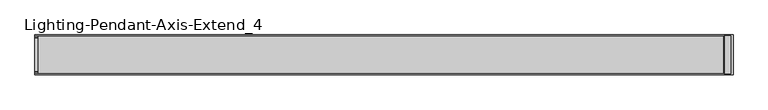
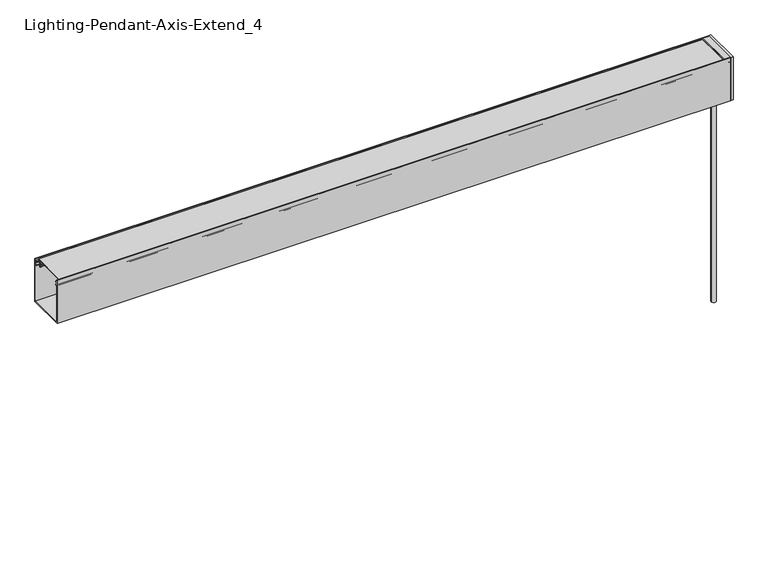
"""IFC4 building model written with IfcOpenShell, lengths in millimetres: light fixture geometry, Lighting-Pendant-Axis-Extend_4 : EX4PD-900-80-35-SO-4."""

import ifcopenshell
import ifcopenshell.guid

model = None  # the IFC model being written
_history = None  # IfcOwnerHistory: only IFC2X3 demands one
_inside = {}  # id of a spatial element -> (the spatial element, [elements in it])
_under = {}  # id of a project, library or spatial element -> (it, [spatial elements below it])
_declared = {}  # id of a project -> (the project, [libraries it declares])
_typed = {}  # id of a type object -> (the type object, [elements of that type])
_made_of = {}  # id of a material, layer set ... -> (it, [elements and type objects made of it])


def new_model(schema):
    """Start an empty IFC model of exactly this schema.

    Asked for "IFC4X3", IfcOpenShell would pick the latest addendum, in which some entities
    have other attributes; the version numbers below select the first issue.
    IFC2X3 requires an IfcOwnerHistory on every rooted entity: one is made here for all.
    """
    global model, _history
    if schema == "IFC4X3":
        model = ifcopenshell.file(schema_version=(4, 3, 0, 0))
    else:
        model = ifcopenshell.file(schema=schema)
    _inside.clear()
    _under.clear()
    _declared.clear()
    _typed.clear()
    _made_of.clear()
    _history = None
    if model.schema == "IFC2X3":
        org = make("IfcOrganization", Name="unknown")
        user = make(
            "IfcPersonAndOrganization",
            ThePerson=make("IfcPerson", FamilyName="unknown"),
            TheOrganization=org,
        )
        app = make(
            "IfcApplication",
            ApplicationDeveloper=org,
            Version="unknown",
            ApplicationFullName="unknown",
            ApplicationIdentifier="unknown",
        )
        _history = make(
            "IfcOwnerHistory",
            OwningUser=user,
            OwningApplication=app,
            ChangeAction="ADDED",
            CreationDate=0,
        )
    return model


def make(cls, **values):
    """One entity of the class cls with the attributes given. An attribute that is None is left unset."""
    return model.create_entity(
        cls, **{name: value for name, value in values.items() if value is not None}
    )


def rooted(cls, **values):
    """An entity with a GlobalId (a new one), such as an element, a storey or a relation."""
    return make(cls, GlobalId=ifcopenshell.guid.new(), OwnerHistory=_history, **values)


def si_unit(unit_type, name, prefix=None):
    """IfcSIUnit, for example si_unit("LENGTHUNIT", "METRE", prefix="MILLI")."""
    return make("IfcSIUnit", UnitType=unit_type, Prefix=prefix, Name=name)


def assignment(units):
    """IfcUnitAssignment: the units of a project."""
    return None if units is None else make("IfcUnitAssignment", Units=units)


def point(xyz):
    """IfcCartesianPoint."""
    return None if xyz is None else make("IfcCartesianPoint", Coordinates=xyz)


def direction(xyz):
    """IfcDirection."""
    return None if xyz is None else make("IfcDirection", DirectionRatios=xyz)


def frame(location, z_axis=None, x_axis=None):
    """IfcAxis2Placement3D, a coordinate frame: its origin and axes. An axis left out is left unset."""
    return make(
        "IfcAxis2Placement3D",
        Location=point(location),
        Axis=direction(z_axis),
        RefDirection=direction(x_axis),
    )


def frame_2d(location, x_axis=None):
    """IfcAxis2Placement2D, a coordinate frame in the plane: its origin and x axis."""
    return make(
        "IfcAxis2Placement2D", Location=point(location), RefDirection=direction(x_axis)
    )


def origin():
    """The frame at (0, 0, 0) with its axes left unset."""
    return frame((0.0, 0.0, 0.0))


def place(relative_to, where):
    """IfcLocalPlacement: puts the frame where relative to a parent placement (None: the world)."""
    return make(
        "IfcLocalPlacement", PlacementRelTo=relative_to, RelativePlacement=where
    )


def context(
    kind, dimensions, precision=None, world=None, true_north=None, identifier=None
):
    """IfcGeometricRepresentationContext, for example the 3D "Model" context."""
    return make(
        "IfcGeometricRepresentationContext",
        ContextIdentifier=identifier,
        ContextType=kind,
        CoordinateSpaceDimension=dimensions,
        Precision=precision,
        WorldCoordinateSystem=world,
        TrueNorth=true_north,
    )


def project(units=None, contexts=None):
    """IfcProject with its units and contexts."""
    return rooted(
        "IfcProject",
        Name="project",
        RepresentationContexts=contexts,
        UnitsInContext=assignment(units),
    )


def spatial(cls, under=None, at=None, **own):
    """A site, building, storey or space (cls), placed at a placement, below another one or the project."""
    s = rooted(cls, ObjectPlacement=at, **own)
    if under is not None:
        _under.setdefault(under.id(), (under, []))[1].append(s)
    return s


def polyline(points):
    """IfcPolyline through the points."""
    return make("IfcPolyline", Points=[point(p) for p in points])


def circle_curve(where, radius):
    """IfcCircle in the frame where."""
    return make("IfcCircle", Position=where, Radius=radius)


def trimmed(basis, trim1, trim2, sense, master):
    """IfcTrimmedCurve: the piece of a basis curve between two trims."""
    return make(
        "IfcTrimmedCurve",
        BasisCurve=basis,
        Trim1=trim1,
        Trim2=trim2,
        SenseAgreement=sense,
        MasterRepresentation=master,
    )


def segment(curve, same_sense, transition):
    """IfcCompositeCurveSegment."""
    return make(
        "IfcCompositeCurveSegment",
        Transition=transition,
        SameSense=same_sense,
        ParentCurve=curve,
    )


def composite_curve(segments, self_intersect=None):
    """IfcCompositeCurve: segments joined end to end."""
    return make("IfcCompositeCurve", Segments=segments, SelfIntersect=self_intersect)


def outline(outer, holes=None, kind="AREA"):
    """IfcArbitraryClosedProfileDef: a profile drawn as a closed curve; with holes, ...WithVoids."""
    if holes is None:
        return make("IfcArbitraryClosedProfileDef", ProfileType=kind, OuterCurve=outer)
    return make(
        "IfcArbitraryProfileDefWithVoids",
        ProfileType=kind,
        OuterCurve=outer,
        InnerCurves=holes,
    )


def extrude(swept, where, along, depth):
    """IfcExtrudedAreaSolid: the profile swept, set in the frame where, extruded along a direction by depth."""
    return make(
        "IfcExtrudedAreaSolid",
        SweptArea=swept,
        Position=where,
        ExtrudedDirection=direction(along),
        Depth=depth,
    )


def shape(context_of_items, identifier, shape_type, items):
    """IfcShapeRepresentation: the items that make up one representation, for example the "Body"."""
    return make(
        "IfcShapeRepresentation",
        ContextOfItems=context_of_items,
        RepresentationIdentifier=identifier,
        RepresentationType=shape_type,
        Items=items,
    )


def source(mapping_origin, context_of_items, identifier, shape_type, items):
    """IfcRepresentationMap: a shape defined once, which mapped items show again and again."""
    return make(
        "IfcRepresentationMap",
        MappingOrigin=mapping_origin,
        MappedRepresentation=shape(context_of_items, identifier, shape_type, items),
    )


def transform(
    local_origin,
    x_axis=None,
    y_axis=None,
    z_axis=None,
    scale=None,
    scale2=None,
    scale3=None,
    uniform=True,
):
    """IfcCartesianTransformationOperator3D, or its non-uniform kind. x_axis, y_axis, z_axis: its Axis1, 2, 3."""
    if uniform:
        return make(
            "IfcCartesianTransformationOperator3D",
            Axis1=direction(x_axis),
            Axis2=direction(y_axis),
            LocalOrigin=point(local_origin),
            Scale=scale,
            Axis3=direction(z_axis),
        )
    return make(
        "IfcCartesianTransformationOperator3DnonUniform",
        Axis1=direction(x_axis),
        Axis2=direction(y_axis),
        LocalOrigin=point(local_origin),
        Scale=scale,
        Axis3=direction(z_axis),
        Scale2=scale2,
        Scale3=scale3,
    )


def mapped(mapping_source, mapping_target):
    """IfcMappedItem: shows the shape of a source again, moved by a transform."""
    return make(
        "IfcMappedItem", MappingSource=mapping_source, MappingTarget=mapping_target
    )


def made_of(thing, what):
    """Note that an element or type object is made of a material, layer set ...; save() writes the relation."""
    if what is not None:
        _made_of.setdefault(what.id(), (what, []))[1].append(thing)
    return thing


def element(
    cls,
    number,
    at=None,
    inside=None,
    cuts=None,
    type_object=None,
    material=None,
    context=None,
    identifier="Body",
    shape_type=None,
    held_by="IfcProductDefinitionShape",
    body=None,
    shapes=None,
    **own,
):
    """One element of the class cls, such as IfcWall. Its Tag is "e" and its number.

    at: its placement. inside: the storey or other place that contains it. cuts: it is an
    opening in that element (IfcRelVoidsElement). A single representation is given by context,
    identifier, shape_type and body (its items); several are given by shapes. held_by: the class
    of the entity that holds the representations. save() writes the other relations.
    """
    e = rooted(cls, Tag="e%d" % number, ObjectPlacement=at, **own)
    if body is not None:
        shapes = [shape(context, identifier, shape_type, body)]
    if shapes is not None:
        e.Representation = make(held_by, Representations=shapes)
    if inside is not None:
        _inside.setdefault(inside.id(), (inside, []))[1].append(e)
    if cuts is not None:
        rooted(
            "IfcRelVoidsElement", RelatingBuildingElement=cuts, RelatedOpeningElement=e
        )
    if type_object is not None:
        _typed.setdefault(type_object.id(), (type_object, []))[1].append(e)
    return made_of(e, material)


def aggregate(whole, parts):
    """IfcRelAggregates: a whole, such as a stair, and the parts it consists of."""
    return rooted("IfcRelAggregates", RelatingObject=whole, RelatedObjects=parts)


def save(model, path):
    """Write the relations noted so far, then the file.

    IfcRelAggregates (storeys below a building ...), IfcRelContainedInSpatialStructure (elements
    in a storey), IfcRelDefinesByType, IfcRelAssociatesMaterial and IfcRelDeclares: one each for
    every whole, place, type object, material and project.
    """
    for whole, parts in _under.values():
        aggregate(whole, parts)
    for where, things in _inside.values():
        rooted(
            "IfcRelContainedInSpatialStructure",
            RelatedElements=things,
            RelatingStructure=where,
        )
    for kind, things in _typed.values():
        rooted("IfcRelDefinesByType", RelatedObjects=things, RelatingType=kind)
    for what, things in _made_of.values():
        rooted("IfcRelAssociatesMaterial", RelatedObjects=things, RelatingMaterial=what)
    for by, libraries in _declared.values():
        rooted("IfcRelDeclares", RelatingContext=by, RelatedDefinitions=libraries)
    model.write(path)


def plane_surface(at):
    """IfcPlane: the flat surface through the origin of the frame at, square to its z axis."""
    return make("IfcPlane", Position=at)


def cylinder_surface(at, radius):
    """IfcCylindricalSurface: all points at the distance radius from the z axis of the frame at."""
    return make("IfcCylindricalSurface", Position=at, Radius=radius)


def advanced_brep(points, edges, surfaces, faces):
    """IfcAdvancedBrep: a solid bounded by faces that lie on surfaces and meet in shared edges.

    An edge is (start, end): straight between two places in points (the first is 0);
    or (start, end, curve); or (start, end, curve, False) where it runs against its curve.
    A face is (place in surfaces, loops), or (place, loops, False) where it looks against
    its surface's normal. A loop lists edges by number (the first is 1), with a minus sign
    where the edge is run from its end to its start. The first loop is the outer one.
    """
    corners = [point(p) for p in points]
    vertices = [make("IfcVertexPoint", VertexGeometry=c) for c in corners]
    made = []
    for start, end, *more in edges:
        made.append(
            make(
                "IfcEdgeCurve",
                EdgeStart=vertices[start],
                EdgeEnd=vertices[end],
                EdgeGeometry=more[0] if more else make("IfcPolyline", Points=[corners[start], corners[end]]),
                SameSense=more[1] if len(more) > 1 else True,
            )
        )
    hull = []
    for where, loops, *sense in faces:
        bounds = []
        for j, loop in enumerate(loops):
            ring = [make("IfcOrientedEdge", EdgeElement=made[abs(k) - 1], Orientation=k > 0) for k in loop]
            bounds.append(
                make(
                    "IfcFaceOuterBound" if j == 0 else "IfcFaceBound",
                    Bound=make("IfcEdgeLoop", EdgeList=ring),
                    Orientation=True,
                )
            )
        hull.append(make("IfcAdvancedFace", Bounds=bounds, FaceSurface=surfaces[where], SameSense=sense[0] if sense else True))
    return make("IfcAdvancedBrep", Outer=make("IfcClosedShell", CfsFaces=hull))


def lighting_pendant_axis_extend_4_bea8cebc(model_context):
    return source(origin(), model_context, "Body", "SolidModel", [
        extrude(outline(polyline([(733.2757861, 911.0726), (731.80575, 911.0726), (731.80575, 911.86635), (732.5995, 911.86635), (732.5995, 918.718), (729.7932981, 918.718), (729.7932981, 929.386), (734.3775, 929.386), (734.3775, 911.9971437), (733.2757861, 911.0726)])), frame((0.0, -50.75301, 0.0), z_axis=(0.0, 1.0, 0.0), x_axis=(0.0, 0.0, 1.0)), (0.0, 0.0, 1.0), 101.50602),
        extrude(outline(polyline([(929.386, -52.78501), (929.386, 52.78501), (935.736, 52.78501), (935.736, -52.78501), (929.386, -52.78501)])), frame((0.0, 0.0, 609.6), z_axis=(0.0, 0.0, 1.0), x_axis=(1.0, 0.0, 0.0)), (0.0, 0.0, 1.0), 124.7775),
        advanced_brep(
        [(918.972, 0.0, 609.6), (906.272, 0.0, 609.6), (912.622, 0.0, 609.6), (918.972, 0.0, 0.0), (906.272, 0.0, 0.0), (912.622, 0.0, 0.0)],
        [
            (0, 1, circle_curve(frame((912.622, 0.0, 609.6), z_axis=(0.0, 0.0, 1.0), x_axis=(-1.0, 0.0, 0.0)), 6.35)),
            (1, 2),
            (2, 0),
            (1, 0, circle_curve(frame((912.622, 0.0, 609.6), z_axis=(0.0, 0.0, 1.0), x_axis=(-1.0, 0.0, 0.0)), 6.35)),
            (3, 4, circle_curve(frame((912.622, 0.0, 0.0), z_axis=(0.0, 0.0, 1.0), x_axis=(-1.0, 0.0, 0.0)), 6.35)),
            (4, 1),
            (0, 3),
            (4, 3, circle_curve(frame((912.622, 0.0, 0.0), z_axis=(0.0, 0.0, 1.0), x_axis=(-1.0, 0.0, 0.0)), 6.35)),
            (5, 4),
            (3, 5),
        ],
        [
            plane_surface(frame((912.622, 0.0, 609.6), z_axis=(0.0, 0.0, 1.0), x_axis=(-1.0, 0.0, 0.0))),
            cylinder_surface(frame((912.622, 0.0, 2913.8581012), z_axis=(0.0, 0.0, -1.0), x_axis=(-1.0, 0.0, 0.0)), 6.35),
            plane_surface(frame((912.622, 0.0, 0.0), z_axis=(0.0, 0.0, -1.0), x_axis=(-1.0, 0.0, 0.0))),
        ],
        [
            (0, [[1, 2, 3]]),
            (0, [[4, -3, -2]]),
            (1, [[5, 6, -1, 7]]),
            (1, [[8, -7, -4, -6]]),
            (2, [[9, -5, 10]]),
            (2, [[-10, -8, -9]]),
        ],
    ),
        extrude(outline(composite_curve([segment(polyline([(-44.9537362, 729.4879991), (-45.2924281, 723.0253737)]), True, "CONTINUOUS"), segment(trimmed(circle_curve(frame_2d((-48.03521, 720.0265)), 4.064), [point((-45.2924281, 723.0253737))], [point((-46.1628914, 716.4194903))], False, "CARTESIAN"), True, "CONTINUOUS"), segment(trimmed(circle_curve(frame_2d((-42.930354, 717.2083457)), 3.3274001), [point((-46.1628914, 716.4194903))], [point((-45.3476056, 714.9217575))], True, "CARTESIAN"), True, "CONTINUOUS"), segment(trimmed(circle_curve(frame_2d((-37.9113277, 721.9560708)), 10.2362001), [point((-45.3476056, 714.9217575))], [point((-43.9929166, 713.7223555))], True, "CARTESIAN"), True, "CONTINUOUS"), segment(trimmed(circle_curve(frame_2d((-44.4833673, 713.0583462)), 0.8255), [point((-43.9929166, 713.7223555))], [point((-44.973818, 712.3943369))], False, "CARTESIAN"), True, "CONTINUOUS"), segment(trimmed(circle_curve(frame_2d((-37.9113269, 721.9560717)), 11.8872013), [point((-44.973818, 712.3943369))], [point((-46.5470052, 713.7871908))], False, "CARTESIAN"), True, "CONTINUOUS"), segment(trimmed(circle_curve(frame_2d((-42.930354, 717.2083457)), 4.9784001), [point((-46.5470052, 713.7871908))], [point((-47.8918907, 717.61776))], False, "CARTESIAN"), True, "CONTINUOUS"), segment(trimmed(circle_curve(frame_2d((-48.03521, 720.0265)), 2.413), [point((-47.8918907, 717.61776))], [point((-46.2564041, 721.6569658))], True, "CARTESIAN"), True, "CONTINUOUS"), segment(trimmed(circle_curve(frame_2d((-44.3839769, 723.3732456)), 2.54), [point((-46.2564041, 721.6569658))], [point((-46.9204959, 723.5061789))], False, "CARTESIAN"), True, "CONTINUOUS"), segment(polyline([(-46.9204959, 723.5061789), (-46.607002, 729.4879991), (-49.61001, 729.4879991), (-49.61001, 731.393), (49.61001, 731.393), (49.61001, 729.4879991), (46.607002, 729.4879991), (46.9204959, 723.5061789)]), True, "CONTINUOUS"), segment(trimmed(circle_curve(frame_2d((44.3839769, 723.3732456)), 2.54), [point((46.9204959, 723.5061789))], [point((46.2564041, 721.6569658))], False, "CARTESIAN"), True, "CONTINUOUS"), segment(trimmed(circle_curve(frame_2d((48.03521, 720.0265)), 2.413), [point((46.2564041, 721.6569658))], [point((47.8918907, 717.61776))], True, "CARTESIAN"), True, "CONTINUOUS"), segment(trimmed(circle_curve(frame_2d((42.930354, 717.2083457)), 4.9784001), [point((47.8918907, 717.61776))], [point((46.5470052, 713.7871908))], False, "CARTESIAN"), True, "CONTINUOUS"), segment(trimmed(circle_curve(frame_2d((37.9113269, 721.9560717)), 11.8872013), [point((46.5470052, 713.7871908))], [point((44.973818, 712.3943369))], False, "CARTESIAN"), True, "CONTINUOUS"), segment(trimmed(circle_curve(frame_2d((44.4833673, 713.0583462)), 0.8255), [point((44.973818, 712.3943369))], [point((43.9929166, 713.7223555))], False, "CARTESIAN"), True, "CONTINUOUS"), segment(trimmed(circle_curve(frame_2d((37.9113277, 721.9560708)), 10.2362001), [point((43.9929166, 713.7223555))], [point((45.3476056, 714.9217575))], True, "CARTESIAN"), True, "CONTINUOUS"), segment(trimmed(circle_curve(frame_2d((42.930354, 717.2083457)), 3.3274001), [point((45.3476056, 714.9217575))], [point((46.1628914, 716.4194903))], True, "CARTESIAN"), True, "CONTINUOUS"), segment(trimmed(circle_curve(frame_2d((48.03521, 720.0265)), 4.064), [point((46.1628914, 716.4194903))], [point((45.2924281, 723.0253737))], False, "CARTESIAN"), True, "CONTINUOUS"), segment(polyline([(45.2924281, 723.0253737), (44.9537362, 729.4879991), (-44.9537362, 729.4879991)]), True, "CONTINUOUS")], self_intersect=False)), frame((-914.4, 0.0, 0.0), z_axis=(1.0, 0.0, 0.0), x_axis=(0.0, 1.0, 0.0)), (0.0, 0.0, 1.0), 1828.8),
        extrude(outline(composite_curve([segment(polyline([(-50.75301, 719.4677), (-50.75301, 611.632), (50.75301, 611.632), (50.75301, 719.4677), (48.9135897, 719.4677)]), True, "CONTINUOUS"), segment(trimmed(circle_curve(frame_2d((47.4072397, 719.4677)), 1.5063501), [point((48.9135897, 719.4677))], [point((46.6540646, 718.1631626))], False, "CARTESIAN"), True, "CONTINUOUS"), segment(trimmed(circle_curve(frame_2d((47.8452221, 720.2263079)), 2.382315), [point((46.6540646, 718.1631626))], [point((45.4706616, 720.4183682))], False, "CARTESIAN"), True, "CONTINUOUS"), segment(polyline([(45.4706616, 720.4183682), (48.84801, 723.2523), (48.84801, 721.4997), (50.75301, 721.4997), (50.75301, 728.0275), (48.84801, 728.0275), (48.84801, 726.5035), (47.19701, 726.5900252), (47.19701, 729.2975), (50.75301, 729.2975), (50.75301, 734.3775), (52.78501, 734.3775), (52.78501, 609.6), (-52.78501, 609.6), (-52.78501, 734.3775), (-50.75301, 734.3775), (-50.75301, 729.2975), (-47.19701, 729.2975), (-47.19701, 726.5900252), (-48.84801, 726.5035), (-48.84801, 728.0275), (-50.75301, 728.0275), (-50.75301, 721.4997), (-48.84801, 721.4997), (-48.84801, 723.2523), (-45.4706616, 720.4183682)]), True, "CONTINUOUS"), segment(trimmed(circle_curve(frame_2d((-47.8452221, 720.2263079)), 2.382315), [point((-45.4706616, 720.4183682))], [point((-46.6540646, 718.1631626))], False, "CARTESIAN"), True, "CONTINUOUS"), segment(trimmed(circle_curve(frame_2d((-47.4072397, 719.4677)), 1.5063501), [point((-46.6540646, 718.1631626))], [point((-48.9135897, 719.4677))], False, "CARTESIAN"), True, "CONTINUOUS"), segment(polyline([(-48.9135897, 719.4677), (-50.75301, 719.4677)]), True, "CONTINUOUS")], self_intersect=False)), frame((-923.5567, 0.0, 0.0), z_axis=(1.0, 0.0, 0.0), x_axis=(0.0, 1.0, 0.0)), (0.0, 0.0, 1.0), 1852.9427),
    ])


if __name__ == "__main__":
    model = new_model("IFC4")
    model_context = context("Model", 3, world=origin())
    ifc_project = project(units=[si_unit("LENGTHUNIT", "METRE", prefix="MILLI")], contexts=[model_context])
    site = spatial("IfcSite", under=ifc_project)
    building = spatial("IfcBuilding", under=site)
    placement = place(None, origin())
    lighting_pendant_axis_extend_4_shape = lighting_pendant_axis_extend_4_bea8cebc(model_context)
    element("IfcLightFixture", 1, ObjectType="Lighting-Pendant-Axis-Extend_4 : EX4PD-900-80-35-SO-4", at=placement, inside=building, context=model_context, shape_type="MappedRepresentation", body=[
        mapped(lighting_pendant_axis_extend_4_shape, transform((0.0, 0.0, 0.0), x_axis=(1.0, 0.0, 0.0), y_axis=(0.0, 1.0, 0.0), z_axis=(0.0, 0.0, 1.0))),
    ])
    save(model, "model.ifc")
